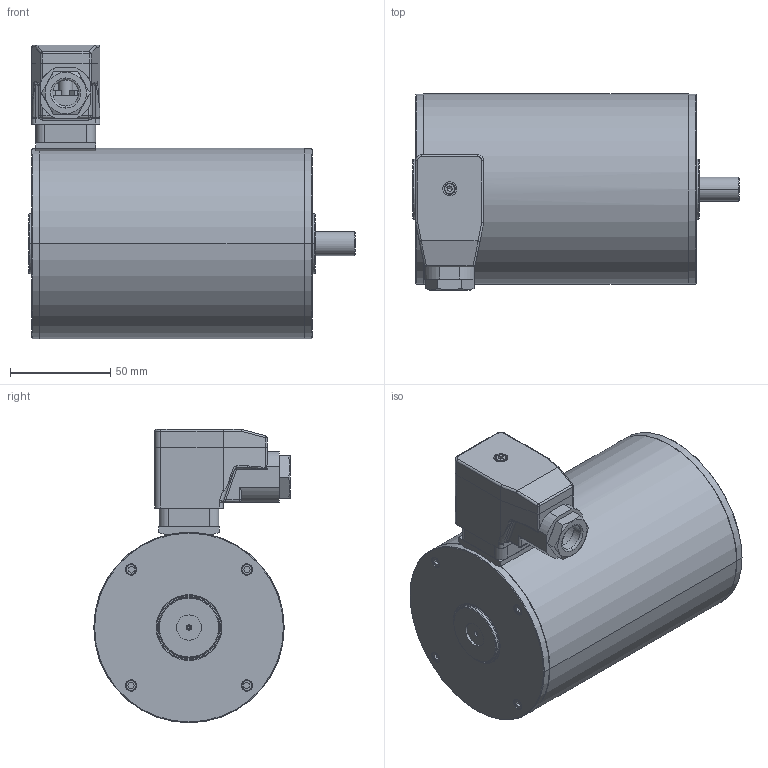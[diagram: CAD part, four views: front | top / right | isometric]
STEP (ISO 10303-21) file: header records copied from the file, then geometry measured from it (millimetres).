
FILE_DESCRIPTION (( 'STEP AP214' ), '1' );
FILE_NAME ('D9564.STEP', '2012-04-16T12:29:57', ( ' ' ), ( '' ), 'SwSTEP 2.0', 'SolidWorks 2010', '' );
FILE_SCHEMA (( 'AUTOMOTIVE_DESIGN' ));
Length unit declared in the file: millimetre
Products named in the file (9): Hirschmann_Einsatz-GDME3020; 951120054; Hirschmann_GDM 3-21_K2-K22-Dichtung f.Dose; D9564; 935282005_ﾘ95; 918082000; Hirschmann_GDME3020; Hirschmann_GSAZ-300
Assembly tree (8 placements, depth 3):
  D9564
    951120054
    918082000
      Hirschmann_GDME3020
      Hirschmann_Einsatz-GDME3020
      Hirschmann_GSAZ-300
      Hirschmann_GDM 3-21_K2-K22-Dichtung f.Dose
      935282005_ﾘ95
    D9564
Bounding box: 163 x 97.99 x 146.42 mm (x, y, z)
Volume: 1051066.8 mm3; surface area: 91457.8 mm2
Topology: 12 solids, 12 shells, 813 faces, 2063 edges, 1320 vertices
Faces by surface type: plane 428, cylinder 271, cone 68, torus 22, bspline 16, sphere 8
Entity records: 27660 total; most frequent: CARTESIAN_POINT 5702, DIRECTION 4209, ORIENTED_EDGE 4090, EDGE_CURVE 2045, AXIS2_PLACEMENT_3D 1451, VERTEX_POINT 1320, LINE 1307, VECTOR 1307
